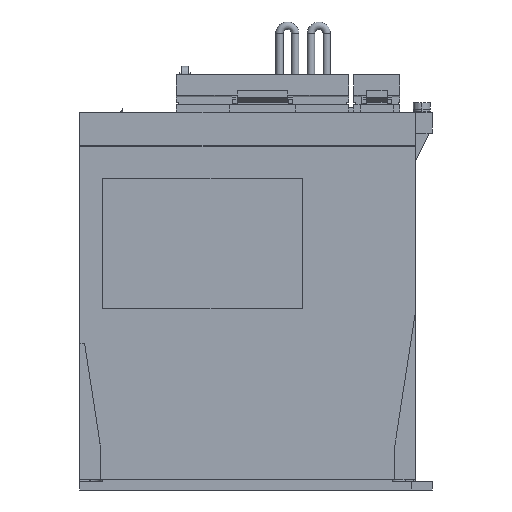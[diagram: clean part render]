
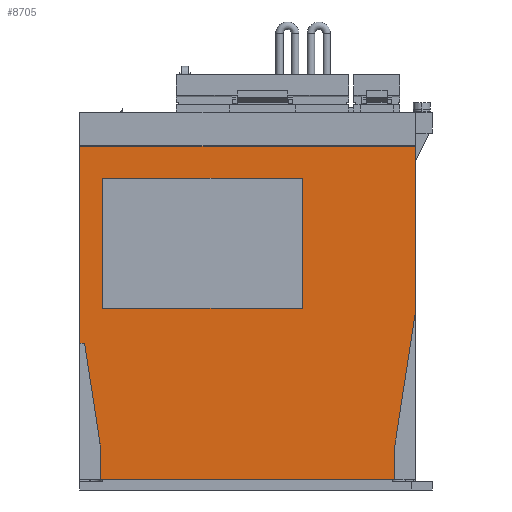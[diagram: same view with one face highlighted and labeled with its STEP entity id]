
A CAD part, left-side view. The second image highlights one B-rep face of the part: STEP entity #8705.
In plain terms, the highlighted planar face has unit normal (-1, 0, 0).
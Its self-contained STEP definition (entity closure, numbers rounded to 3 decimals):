
#6279 = VERTEX_POINT ( 'NONE', #30811 ) ;
#6281 = EDGE_CURVE ( 'NONE', #6309, #6279, #30810, .T. ) ;
#6309 = VERTEX_POINT ( 'NONE', #30824 ) ;
#8666 = ORIENTED_EDGE ( 'NONE', *, *, #8668, .F. ) ;
#8668 = EDGE_CURVE ( 'NONE', #8669, #8752, #34678, .T. ) ;
#8669 = VERTEX_POINT ( 'NONE', #34674 ) ;
#8671 = ORIENTED_EDGE ( 'NONE', *, *, #8673, .F. ) ;
#8673 = EDGE_CURVE ( 'NONE', #8746, #8669, #34737, .T. ) ;
#8675 = EDGE_LOOP ( 'NONE', ( #8677, #8679, #8716, #8722, #8728, #8734, #8739, #8773, #8779 ) ) ;
#8677 = ORIENTED_EDGE ( 'NONE', *, *, #6281, .T. ) ;
#8679 = ORIENTED_EDGE ( 'NONE', *, *, #8713, .T. ) ;
#8680 = VERTEX_POINT ( 'NONE', #34728 ) ;
#8705 = ADVANCED_FACE ( 'NONE', ( #34750, #34749 ), #34748, .F. ) ;
#8706 = EDGE_LOOP ( 'NONE', ( #8741, #8748, #8666, #8671 ) ) ;
#8713 = EDGE_CURVE ( 'NONE', #6279, #8680, #34800, .T. ) ;
#8716 = ORIENTED_EDGE ( 'NONE', *, *, #8718, .F. ) ;
#8718 = EDGE_CURVE ( 'NONE', #8719, #8680, #34790, .T. ) ;
#8719 = VERTEX_POINT ( 'NONE', #34786 ) ;
#8722 = ORIENTED_EDGE ( 'NONE', *, *, #8724, .T. ) ;
#8724 = EDGE_CURVE ( 'NONE', #8719, #8725, #34780, .T. ) ;
#8725 = VERTEX_POINT ( 'NONE', #34776 ) ;
#8728 = ORIENTED_EDGE ( 'NONE', *, *, #8730, .T. ) ;
#8730 = EDGE_CURVE ( 'NONE', #8725, #8731, #34834, .T. ) ;
#8731 = VERTEX_POINT ( 'NONE', #34830 ) ;
#8734 = ORIENTED_EDGE ( 'NONE', *, *, #8735, .F. ) ;
#8735 = EDGE_CURVE ( 'NONE', #8737, #8731, #34825, .T. ) ;
#8737 = VERTEX_POINT ( 'NONE', #34821 ) ;
#8739 = ORIENTED_EDGE ( 'NONE', *, *, #8771, .T. ) ;
#8740 = VERTEX_POINT ( 'NONE', #34820 ) ;
#8741 = ORIENTED_EDGE ( 'NONE', *, *, #8742, .F. ) ;
#8742 = EDGE_CURVE ( 'NONE', #8744, #8746, #34819, .T. ) ;
#8744 = VERTEX_POINT ( 'NONE', #34811 ) ;
#8746 = VERTEX_POINT ( 'NONE', #34809 ) ;
#8748 = ORIENTED_EDGE ( 'NONE', *, *, #8750, .F. ) ;
#8750 = EDGE_CURVE ( 'NONE', #8752, #8744, #34804, .T. ) ;
#8752 = VERTEX_POINT ( 'NONE', #34862 ) ;
#8771 = EDGE_CURVE ( 'NONE', #8737, #8740, #34899, .T. ) ;
#8773 = ORIENTED_EDGE ( 'NONE', *, *, #8775, .F. ) ;
#8775 = EDGE_CURVE ( 'NONE', #8776, #8740, #34891, .T. ) ;
#8776 = VERTEX_POINT ( 'NONE', #34887 ) ;
#8779 = ORIENTED_EDGE ( 'NONE', *, *, #8781, .F. ) ;
#8781 = EDGE_CURVE ( 'NONE', #6309, #8776, #34879, .T. ) ;
#30807 = DIRECTION ( 'NONE',  ( 0., 0., -1. ) ) ;
#30808 = VECTOR ( 'NONE', #30807, 1000. ) ;
#30809 = CARTESIAN_POINT ( 'NONE',  ( -6., 5., 338.642 ) ) ;
#30810 = LINE ( 'NONE', #30809, #30808 ) ;
#30811 = CARTESIAN_POINT ( 'NONE',  ( -6., 5., 70. ) ) ;
#30824 = CARTESIAN_POINT ( 'NONE',  ( -6., 5., 163.8 ) ) ;
#34674 = CARTESIAN_POINT ( 'NONE',  ( -6., -6., 148.6 ) ) ;
#34675 = DIRECTION ( 'NONE',  ( 0., 0., -1. ) ) ;
#34676 = VECTOR ( 'NONE', #34675, 1000. ) ;
#34677 = CARTESIAN_POINT ( 'NONE',  ( -6., -6., 86.6 ) ) ;
#34678 = LINE ( 'NONE', #34677, #34676 ) ;
#34728 = CARTESIAN_POINT ( 'NONE',  ( -6., 2.692, 70. ) ) ;
#34734 = DIRECTION ( 'NONE',  ( 0., 1., 0. ) ) ;
#34735 = VECTOR ( 'NONE', #34734, 1000. ) ;
#34736 = CARTESIAN_POINT ( 'NONE',  ( -6., -6., 148.6 ) ) ;
#34737 = LINE ( 'NONE', #34736, #34735 ) ;
#34744 = DIRECTION ( 'NONE',  ( 0., 1., 0. ) ) ;
#34745 = DIRECTION ( 'NONE',  ( 1., 0., 0. ) ) ;
#34746 = CARTESIAN_POINT ( 'NONE',  ( -6., 5., 338.642 ) ) ;
#34747 = AXIS2_PLACEMENT_3D ( 'NONE', #34746, #34745, #34744 ) ;
#34748 = PLANE ( 'NONE',  #34747 ) ;
#34749 = FACE_OUTER_BOUND ( 'NONE', #8675, .T. ) ;
#34750 = FACE_BOUND ( 'NONE', #8706, .T. ) ;
#34776 = CARTESIAN_POINT ( 'NONE',  ( -6., -5., 5.2 ) ) ;
#34777 = DIRECTION ( 'NONE',  ( 0., 0., -1. ) ) ;
#34778 = VECTOR ( 'NONE', #34777, 1000. ) ;
#34779 = CARTESIAN_POINT ( 'NONE',  ( -6., -5., 20. ) ) ;
#34780 = LINE ( 'NONE', #34779, #34778 ) ;
#34786 = CARTESIAN_POINT ( 'NONE',  ( -6., -5., 20. ) ) ;
#34787 = DIRECTION ( 'NONE',  ( 0., 0.152, 0.988 ) ) ;
#34788 = VECTOR ( 'NONE', #34787, 1000. ) ;
#34789 = CARTESIAN_POINT ( 'NONE',  ( -6., -5., 20. ) ) ;
#34790 = LINE ( 'NONE', #34789, #34788 ) ;
#34797 = DIRECTION ( 'NONE',  ( 0., -1., 0. ) ) ;
#34798 = VECTOR ( 'NONE', #34797, 1000. ) ;
#34799 = CARTESIAN_POINT ( 'NONE',  ( -6., 5., 70. ) ) ;
#34800 = LINE ( 'NONE', #34799, #34798 ) ;
#34801 = DIRECTION ( 'NONE',  ( 0., -1., 0. ) ) ;
#34802 = VECTOR ( 'NONE', #34801, 1000. ) ;
#34803 = CARTESIAN_POINT ( 'NONE',  ( -6., -6., 86.6 ) ) ;
#34804 = LINE ( 'NONE', #34803, #34802 ) ;
#34809 = CARTESIAN_POINT ( 'NONE',  ( -6., -101., 148.6 ) ) ;
#34811 = CARTESIAN_POINT ( 'NONE',  ( -6., -101., 86.6 ) ) ;
#34816 = DIRECTION ( 'NONE',  ( 0., 0., 1. ) ) ;
#34817 = VECTOR ( 'NONE', #34816, 1000. ) ;
#34818 = CARTESIAN_POINT ( 'NONE',  ( -6., -101., 86.6 ) ) ;
#34819 = LINE ( 'NONE', #34818, #34817 ) ;
#34820 = CARTESIAN_POINT ( 'NONE',  ( -6., -155., 85. ) ) ;
#34821 = CARTESIAN_POINT ( 'NONE',  ( -6., -145., 20. ) ) ;
#34822 = DIRECTION ( 'NONE',  ( 0., 0., -1. ) ) ;
#34823 = VECTOR ( 'NONE', #34822, 1000. ) ;
#34824 = CARTESIAN_POINT ( 'NONE',  ( -6., -145., 20. ) ) ;
#34825 = LINE ( 'NONE', #34824, #34823 ) ;
#34830 = CARTESIAN_POINT ( 'NONE',  ( -6., -145., 5.2 ) ) ;
#34831 = DIRECTION ( 'NONE',  ( 0., -1., 0. ) ) ;
#34832 = VECTOR ( 'NONE', #34831, 1000. ) ;
#34833 = CARTESIAN_POINT ( 'NONE',  ( -6., -5., 5.2 ) ) ;
#34834 = LINE ( 'NONE', #34833, #34832 ) ;
#34862 = CARTESIAN_POINT ( 'NONE',  ( -6., -6., 86.6 ) ) ;
#34876 = DIRECTION ( 'NONE',  ( 0., -1., 0. ) ) ;
#34877 = VECTOR ( 'NONE', #34876, 1000. ) ;
#34878 = CARTESIAN_POINT ( 'NONE',  ( -6., 5., 163.8 ) ) ;
#34879 = LINE ( 'NONE', #34878, #34877 ) ;
#34887 = CARTESIAN_POINT ( 'NONE',  ( -6., -155., 163.8 ) ) ;
#34888 = DIRECTION ( 'NONE',  ( 0., 0., -1. ) ) ;
#34889 = VECTOR ( 'NONE', #34888, 1000. ) ;
#34890 = CARTESIAN_POINT ( 'NONE',  ( -6., -155., 338.642 ) ) ;
#34891 = LINE ( 'NONE', #34890, #34889 ) ;
#34896 = DIRECTION ( 'NONE',  ( 0., -0.152, 0.988 ) ) ;
#34897 = VECTOR ( 'NONE', #34896, 1000. ) ;
#34898 = CARTESIAN_POINT ( 'NONE',  ( -6., -145., 20. ) ) ;
#34899 = LINE ( 'NONE', #34898, #34897 ) ;
